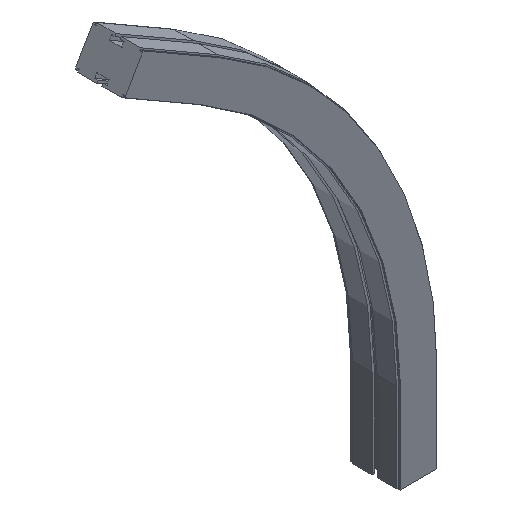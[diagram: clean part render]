
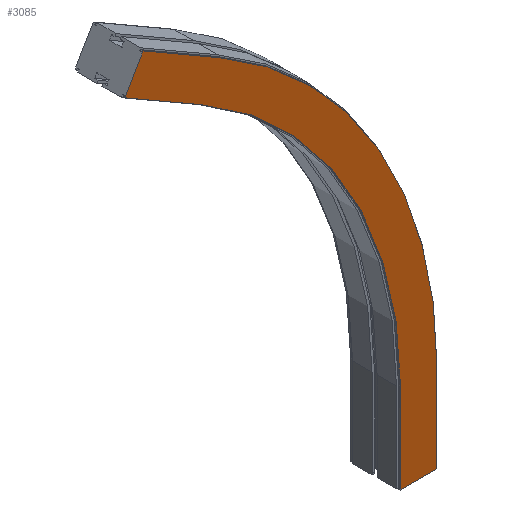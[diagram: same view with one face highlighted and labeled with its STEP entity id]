
A CAD part, isometric view. The second image highlights one B-rep face of the part: STEP entity #3085.
In plain terms, the highlighted planar face has unit normal (0, -1, 0).
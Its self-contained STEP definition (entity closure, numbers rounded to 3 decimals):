
#25 = PLANE ( 'NONE',  #2349 ) ;
#203 = VECTOR ( 'NONE', #1377, 1000. ) ;
#246 = CARTESIAN_POINT ( 'NONE',  ( -334.675, -42., 782.761 ) ) ;
#295 = VECTOR ( 'NONE', #1237, 1000. ) ;
#333 = FACE_OUTER_BOUND ( 'NONE', #549, .T. ) ;
#350 = EDGE_CURVE ( 'Edge42', #2051, #1130, #2947, .T. ) ;
#421 = DIRECTION ( 'NONE',  ( 0., 0., -1. ) ) ;
#456 = EDGE_CURVE ( 'NONE', #1428, #1733, #618, .T. ) ;
#483 = CARTESIAN_POINT ( 'NONE',  ( -30.65, -42., 150. ) ) ;
#549 = EDGE_LOOP ( 'NONE', ( #1019, #3122, #632, #2573, #1654, #2512, #2300, #1855 ) ) ;
#613 = LINE ( 'NONE', #1507, #2868 ) ;
#618 = LINE ( 'NONE', #754, #2410 ) ;
#632 = ORIENTED_EDGE ( 'NONE', *, *, #2057, .T. ) ;
#754 = CARTESIAN_POINT ( 'NONE',  ( -30.65, -42., 0. ) ) ;
#894 = AXIS2_PLACEMENT_3D ( 'NONE', #2761, #1335, #1313 ) ;
#926 = EDGE_CURVE ( 'NONE', #1368, #2066, #613, .T. ) ;
#975 = DIRECTION ( 'NONE',  ( 1., 0., 0. ) ) ;
#1019 = ORIENTED_EDGE ( 'NONE', *, *, #456, .F. ) ;
#1125 = CIRCLE ( 'NONE', #894, 730.65 ) ;
#1130 = VERTEX_POINT ( 'NONE', #2074 ) ;
#1169 = CARTESIAN_POINT ( 'NONE',  ( 30.65, -42., 150. ) ) ;
#1174 = EDGE_CURVE ( 'NONE', #2531, #1428, #2716, .T. ) ;
#1181 = CARTESIAN_POINT ( 'NONE',  ( 30.65, -42., 150. ) ) ;
#1193 = DIRECTION ( 'NONE',  ( 0., -1., 0. ) ) ;
#1237 = DIRECTION ( 'NONE',  ( -0.866, 0., 0.5 ) ) ;
#1278 = CARTESIAN_POINT ( 'NONE',  ( 30.65, -42., 0. ) ) ;
#1279 = DIRECTION ( 'NONE',  ( -1., 0., 0. ) ) ;
#1313 = DIRECTION ( 'NONE',  ( 0., 0., -1. ) ) ;
#1335 = DIRECTION ( 'NONE',  ( 0., -1., 0. ) ) ;
#1368 = VERTEX_POINT ( 'NONE', #2627 ) ;
#1377 = DIRECTION ( 'NONE',  ( -0.5, 0., -0.866 ) ) ;
#1428 = VERTEX_POINT ( 'NONE', #1278 ) ;
#1442 = CIRCLE ( 'NONE', #1933, 669.35 ) ;
#1507 = CARTESIAN_POINT ( 'NONE',  ( -365.325, -42., 729.674 ) ) ;
#1654 = ORIENTED_EDGE ( 'NONE', *, *, #1736, .T. ) ;
#1663 = CARTESIAN_POINT ( 'NONE',  ( -30.65, -42., 150. ) ) ;
#1692 = VERTEX_POINT ( 'NONE', #1663 ) ;
#1733 = VERTEX_POINT ( 'NONE', #1906 ) ;
#1736 = EDGE_CURVE ( 'NONE', #1130, #2066, #2971, .T. ) ;
#1791 = DIRECTION ( 'NONE',  ( 0., -1., 0. ) ) ;
#1855 = ORIENTED_EDGE ( 'NONE', *, *, #2210, .T. ) ;
#1906 = CARTESIAN_POINT ( 'NONE',  ( -30.65, -42., 0. ) ) ;
#1933 = AXIS2_PLACEMENT_3D ( 'NONE', #2548, #1791, #2079 ) ;
#2051 = VERTEX_POINT ( 'NONE', #2515 ) ;
#2057 = EDGE_CURVE ( 'Edge18', #2531, #2051, #1125, .T. ) ;
#2066 = VERTEX_POINT ( 'NONE', #2990 ) ;
#2072 = EDGE_CURVE ( 'NONE', #1692, #1368, #1442, .T. ) ;
#2074 = CARTESIAN_POINT ( 'NONE',  ( -464.579, -42., 857.761 ) ) ;
#2079 = DIRECTION ( 'NONE',  ( 0., 0., -1. ) ) ;
#2210 = EDGE_CURVE ( 'NONE', #1692, #1733, #3063, .T. ) ;
#2300 = ORIENTED_EDGE ( 'NONE', *, *, #2072, .F. ) ;
#2349 = AXIS2_PLACEMENT_3D ( 'NONE', #483, #1193, #975 ) ;
#2402 = DIRECTION ( 'NONE',  ( 0., 0., -1. ) ) ;
#2410 = VECTOR ( 'NONE', #1279, 1000. ) ;
#2416 = CARTESIAN_POINT ( 'NONE',  ( -30.65, -42., 150. ) ) ;
#2431 = DIRECTION ( 'NONE',  ( -0.866, 0., 0.5 ) ) ;
#2512 = ORIENTED_EDGE ( 'NONE', *, *, #926, .F. ) ;
#2515 = CARTESIAN_POINT ( 'NONE',  ( -334.675, -42., 782.761 ) ) ;
#2531 = VERTEX_POINT ( 'NONE', #1181 ) ;
#2548 = CARTESIAN_POINT ( 'NONE',  ( -700., -42., 150. ) ) ;
#2573 = ORIENTED_EDGE ( 'NONE', *, *, #350, .T. ) ;
#2627 = CARTESIAN_POINT ( 'NONE',  ( -365.325, -42., 729.674 ) ) ;
#2716 = LINE ( 'NONE', #1169, #3019 ) ;
#2735 = VECTOR ( 'NONE', #2402, 1000. ) ;
#2761 = CARTESIAN_POINT ( 'NONE',  ( -700., -42., 150. ) ) ;
#2868 = VECTOR ( 'NONE', #2431, 1000. ) ;
#2947 = LINE ( 'NONE', #246, #295 ) ;
#2971 = LINE ( 'NONE', #3108, #203 ) ;
#2990 = CARTESIAN_POINT ( 'NONE',  ( -495.229, -42., 804.674 ) ) ;
#3019 = VECTOR ( 'NONE', #421, 1000. ) ;
#3063 = LINE ( 'NONE', #2416, #2735 ) ;
#3085 = ADVANCED_FACE ( 'NONE', ( #333 ), #25, .T. ) ;
#3108 = CARTESIAN_POINT ( 'NONE',  ( -495.229, -42., 804.674 ) ) ;
#3122 = ORIENTED_EDGE ( 'NONE', *, *, #1174, .F. ) ;
